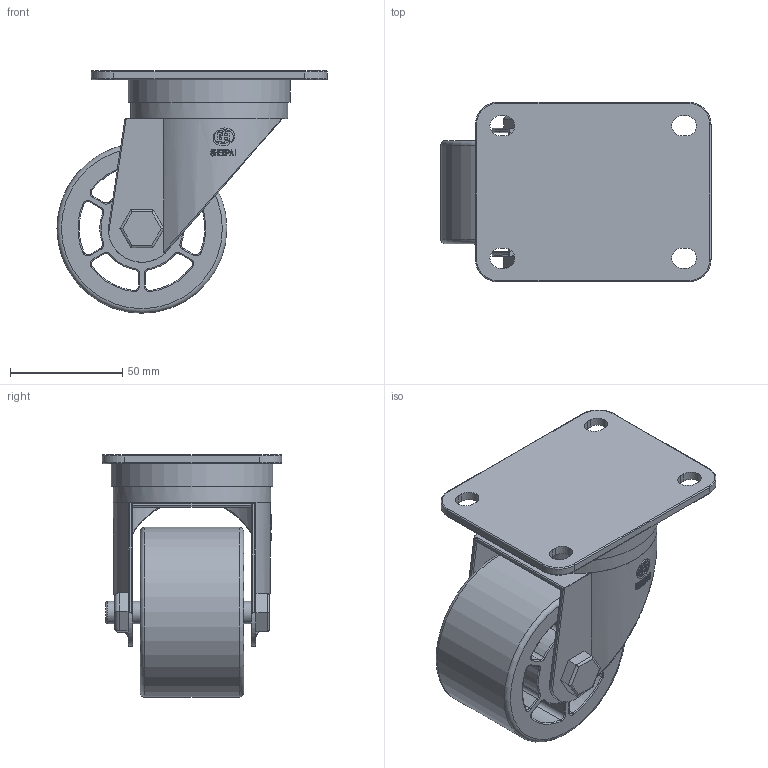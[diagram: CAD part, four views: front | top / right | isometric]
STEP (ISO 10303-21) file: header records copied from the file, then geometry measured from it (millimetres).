
FILE_DESCRIPTION(/* description */ (''),/* implementation_level */ '2;1');
FILE_NAME(/* name */ '30B06_3_F_stp.stp',/* time_stamp */ '2024-01-04T12:09:52+08:00',/* author */ (''),/* organization */ (''),/* preprocessor_version */ 'ST-DEVELOPER v16',/* originating_system */ 'SIEMENS PLM Software NX 10.0',/* authorisation */ '');
FILE_SCHEMA (('AUTOMOTIVE_DESIGN { 1 0 10303 214 3 1 1 1 }'));
Length unit declared in the file: millimetre
Products named in the file (1): 30B06_3_F_stp
Bounding box: 120.35 x 80 x 108 mm (x, y, z)
Volume: 257260 mm3; surface area: 74767.6 mm2
Topology: 1 solids, 1 shells, 463 faces, 1176 edges, 739 vertices
Faces by surface type: plane 207, cylinder 158, torus 91, bspline 4, cone 3
Full cylindrical faces by diameter (mm): 10 x2, 10.1 x2, 62 x1, 70 x1, 72 x1, 75.7 x1
Entity records: 14997 total; most frequent: CARTESIAN_POINT 3637, DIRECTION 2538, ORIENTED_EDGE 2300, EDGE_CURVE 1150, AXIS2_PLACEMENT_3D 1036, VERTEX_POINT 734, EDGE_LOOP 532, LINE 466
